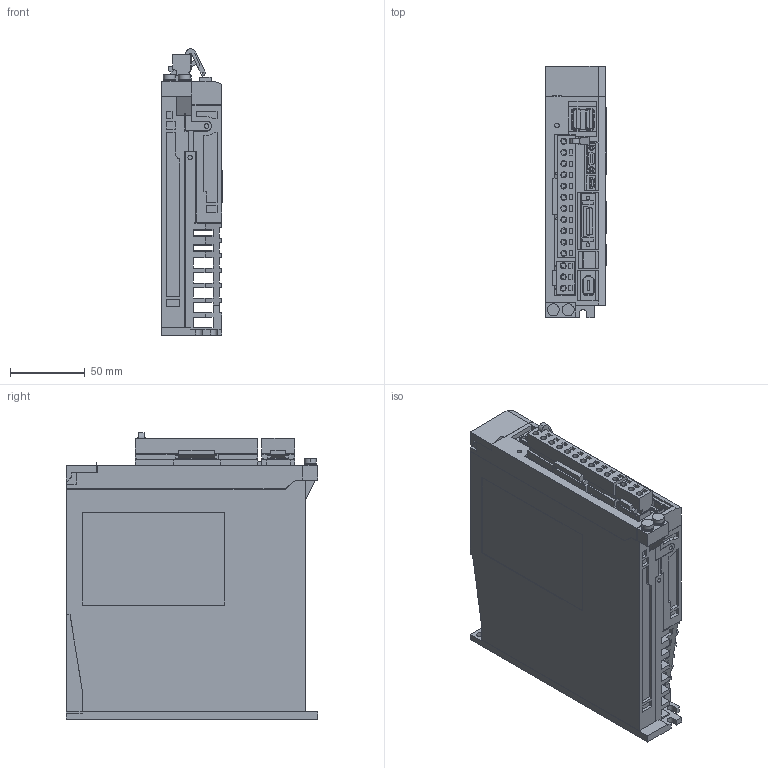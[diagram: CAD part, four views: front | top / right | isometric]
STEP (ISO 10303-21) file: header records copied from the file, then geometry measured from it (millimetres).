
FILE_DESCRIPTION (( 'STEP AP203' ), '1' );
FILE_NAME ('sgd7s_r70f10a.STEP', '2016-12-09T00:11:16', ( '匠エンジニアリング山之内' ), ( 'TAKUMI-Engniaring' ), 'SwSTEP 2.0', 'SolidWorks 2006303', '' );
FILE_SCHEMA (( 'CONFIG_CONTROL_DESIGN' ));
Products named in the file (10): sgd7s_r70f10a_connector_2; sgd7s_r70f10a_pin; sgd7s_r70f10a_cover3; sgd7s_r70f10a; sgd7s_r70f10a_base; sgd7s_r70f10a_connector; sgd7s_r70f10a_connector_1; sgd7s_r70f10a_cover; sgd7s_r70f10a_cover2; sgd7s_r70f10a_connector_3
Assembly tree (10 placements, depth 3):
  sgd7s_r70f10a
    sgd7s_r70f10a_connector_1
    sgd7s_r70f10a_cover
    sgd7s_r70f10a_cover2  x2
    sgd7s_r70f10a_connector_3
    sgd7s_r70f10a_connector
      sgd7s_r70f10a_connector_2
      sgd7s_r70f10a_pin
    sgd7s_r70f10a_base
    sgd7s_r70f10a_cover3
Bounding box: 40.5 x 168 x 191.83 mm (x, y, z)
Volume: 935003.6 mm3; surface area: 172447.9 mm2
Topology: 9 solids, 9 shells, 1799 faces, 4814 edges, 3174 vertices
Faces by surface type: plane 1652, cylinder 142, cone 4, sphere 1
Entity records: 55596 total; most frequent: CARTESIAN_POINT 9690, ORIENTED_EDGE 9520, DIRECTION 8636, EDGE_CURVE 4760, VECTOR 4468, LINE 4468, VERTEX_POINT 3138, AXIS2_PLACEMENT_3D 2084
